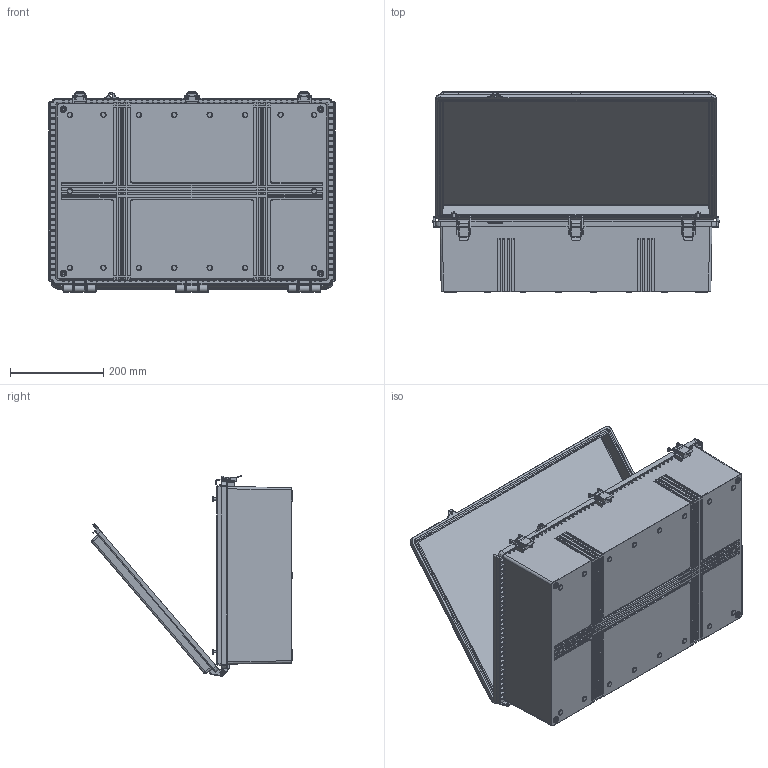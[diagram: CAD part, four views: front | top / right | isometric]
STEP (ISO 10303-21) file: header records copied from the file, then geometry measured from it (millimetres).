
FILE_DESCRIPTION (( 'STEP AP203' ), '1' );
FILE_NAME ('WQ-77.step', '2021-04-22T17:49:40', ( '' ), ( '' ), 'SwSTEP 2.0', 'SolidWorks 2016', '' );
FILE_SCHEMA (( 'CONFIG_CONTROL_DESIGN' ));
Length unit declared in the file: millimetre
Products named in the file (12): WQ-PIN-03; WQ-77C_WQ-77C-02; SCREWS-026-004; BASE^WQ-76L-01; WQ-76L-01_DEFAULT; WQ-77S_WQ-77S-02; PIN^WQ-76L-01; WQ-77; WQ-77B_WQ-77B-02; FRONT^WQ-76L-01_default; SCREWS-026_DEFAULT; LOOP^WQ-76L-01
Assembly tree (18 placements, depth 4):
  WQ-77
    WQ-77S_WQ-77S-02
      WQ-77B_WQ-77B-02
      WQ-77C_WQ-77C-02
      WQ-76L-01_DEFAULT  x3
        BASE^WQ-76L-01
        FRONT^WQ-76L-01_default
        PIN^WQ-76L-01
        LOOP^WQ-76L-01
      WQ-PIN-03  x3
    SCREWS-026-004
      SCREWS-026_DEFAULT  x4
Bounding box: 613.4 x 430.77 x 429.16 mm (x, y, z)
Volume: 3576372.3 mm3; surface area: 1867497.3 mm2
Topology: 33 solids, 33 shells, 4040 faces, 10277 edges, 6335 vertices
Faces by surface type: cylinder 1685, plane 1546, bspline 462, torus 185, cone 98, sphere 64
Full cylindrical faces by diameter (mm): 2.489 x21, 2.5 x3, 2.921 x3, 3.048 x6, 3.2 x6, 4 x14, 4.2 x11, 4.762 x3, 5 x7, 5.08 x9, 6.5 x8, 6.75 x11, 7.15 x3, 11.8 x4, 11.81 x18, 14 x4
Entity records: 116514 total; most frequent: CARTESIAN_POINT 34860, ORIENTED_EDGE 18036, DIRECTION 15342, EDGE_CURVE 9018, VERTEX_POINT 5690, AXIS2_PLACEMENT_3D 5222, VECTOR 4898, LINE 4898
